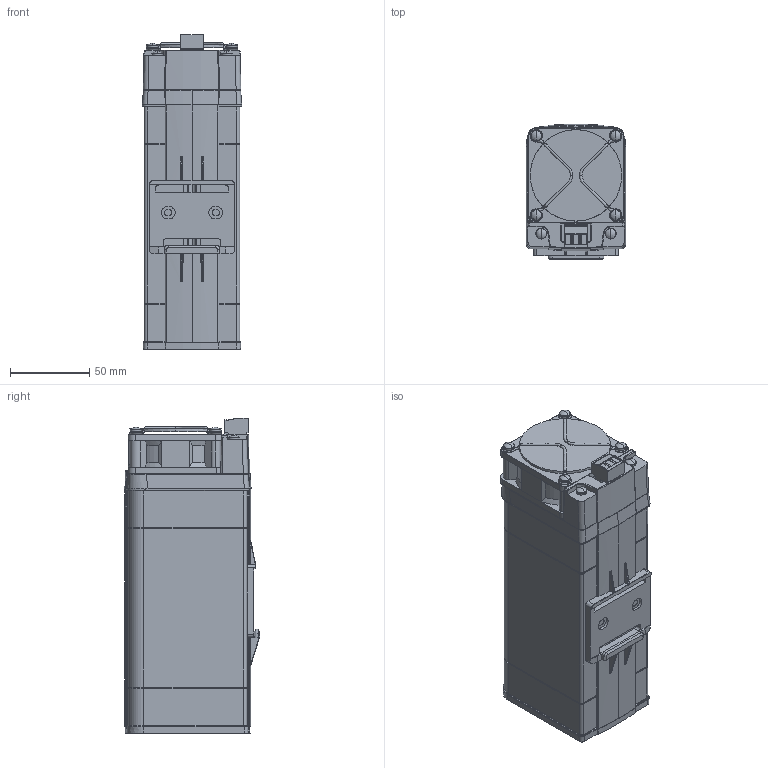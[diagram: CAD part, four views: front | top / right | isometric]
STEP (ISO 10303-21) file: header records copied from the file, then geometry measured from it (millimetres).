
FILE_DESCRIPTION (( 'STEP AP214' ), '1' );
FILE_NAME ('HVPS300(400)THP-300(X)-1.STEP', '2026-07-07T06:46:47', ( '' ), ( '' ), 'SwSTEP 2.0', 'SolidWorks 2022', '' );
FILE_SCHEMA (( 'AUTOMOTIVE_DESIGN' ));
Length unit declared in the file: millimetre
Products named in the file (14): Vite ST3.5_semplificata; Placchetta posteriore_Placchetta posteriore L150 semplificata; HVPS300(400)THP-300(X)-1; Copertura PLASTICA_Lunghezza L 150mm semplificata; Copertura PLASTICA_150 lato opposto semplificata; Vite ST3.5x38_semplificata; DT-04535DSI_Default semplificata; DT-04539DSI_Semplificata; 60N_semplificata; Placchetta frontale_Placchetta frontale L150+logo semplificata; DT-04687DSI_Default semplificata; 2EDGKF-5.0-03P-04_semplificata; Tappo Plastico di estremità_tappo semplificato coperture plastiche; Profilo dissipatore deformato_Lung.150mm semplificato
Assembly tree (21 placements, depth 2):
  HVPS300(400)THP-300(X)-1
    Profilo dissipatore deformato_Lung.150mm semplificato
    Tappo Plastico di estremità_tappo semplificato coperture plastiche
    Vite ST3.5_semplificata  x4
    Vite ST3.5x38_semplificata  x6
    DT-04539DSI_Semplificata
    DT-04535DSI_Default semplificata
    DT-04687DSI_Default semplificata
    60N_semplificata
    Copertura PLASTICA_Lunghezza L 150mm semplificata
    Copertura PLASTICA_150 lato opposto semplificata
    Placchetta frontale_Placchetta frontale L150+logo semplificata
    Placchetta posteriore_Placchetta posteriore L150 semplificata
    2EDGKF-5.0-03P-04_semplificata
Bounding box: 62.7 x 85.41 x 198.84 mm (x, y, z)
Volume: 854957.5 mm3; surface area: 171109.8 mm2
Topology: 21 solids, 31 shells, 1395 faces, 3696 edges, 2406 vertices
Faces by surface type: plane 633, cylinder 386, cone 183, bspline 124, torus 47, sphere 22
Entity records: 61559 total; most frequent: CARTESIAN_POINT 24437, ORIENTED_EDGE 7200, DIRECTION 6449, EDGE_CURVE 3600, VERTEX_POINT 2350, AXIS2_PLACEMENT_3D 2243, VECTOR 1963, LINE 1963
